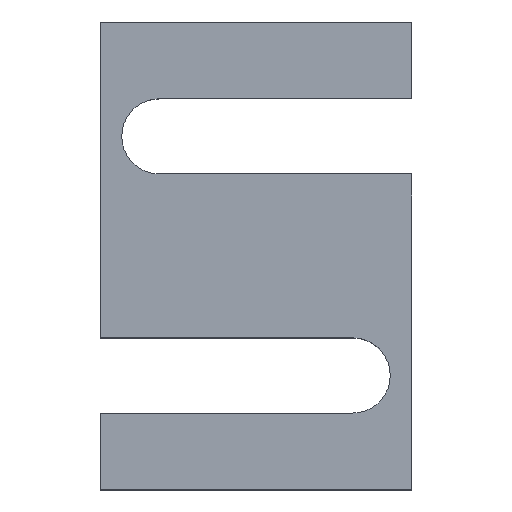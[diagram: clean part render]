
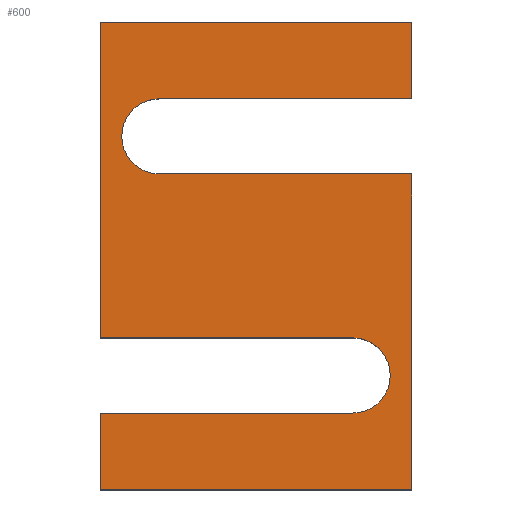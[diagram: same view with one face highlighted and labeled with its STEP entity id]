
A CAD part, top view. The second image highlights one B-rep face of the part: STEP entity #600.
In plain terms, the highlighted planar face has unit normal (0, 0, 1).
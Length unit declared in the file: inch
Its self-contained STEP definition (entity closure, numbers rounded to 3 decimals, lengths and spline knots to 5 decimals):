
#10 = LINE ( 'NONE', #109, #179 ) ;
#11 = CARTESIAN_POINT ( 'NONE',  ( -1., -1.5, 0.375 ) ) ;
#12 = EDGE_CURVE ( 'NONE', #345, #127, #318, .T. ) ;
#22 = DIRECTION ( 'NONE',  ( 1., 0., 0. ) ) ;
#26 = CARTESIAN_POINT ( 'NONE',  ( -0.86114, 0.76673, 0.375 ) ) ;
#27 = CIRCLE ( 'NONE', #185, 0.24114 ) ;
#29 = ORIENTED_EDGE ( 'NONE', *, *, #12, .T. ) ;
#51 = CARTESIAN_POINT ( 'NONE',  ( -1., -1.00787, 0.375 ) ) ;
#52 = VERTEX_POINT ( 'NONE', #155 ) ;
#56 = EDGE_CURVE ( 'NONE', #568, #57, #470, .T. ) ;
#57 = VERTEX_POINT ( 'NONE', #11 ) ;
#59 = DIRECTION ( 'NONE',  ( -1., 0., 0. ) ) ;
#63 = CARTESIAN_POINT ( 'NONE',  ( -1., -0.52559, 0.375 ) ) ;
#64 = CARTESIAN_POINT ( 'NONE',  ( 1., 0.52559, 0.375 ) ) ;
#68 = CARTESIAN_POINT ( 'NONE',  ( -1., -0.52559, 0.375 ) ) ;
#71 = VERTEX_POINT ( 'NONE', #64 ) ;
#81 = VECTOR ( 'NONE', #643, 39.37008 ) ;
#83 = LINE ( 'NONE', #666, #310 ) ;
#93 = CARTESIAN_POINT ( 'NONE',  ( -0.62, 0.76673, 0.375 ) ) ;
#98 = CARTESIAN_POINT ( 'NONE',  ( -1., 1.5, 0.375 ) ) ;
#100 = DIRECTION ( 'NONE',  ( 0., 0., 1. ) ) ;
#105 = ORIENTED_EDGE ( 'NONE', *, *, #433, .T. ) ;
#109 = CARTESIAN_POINT ( 'NONE',  ( 1., 1.5, 0.375 ) ) ;
#115 = LINE ( 'NONE', #243, #412 ) ;
#124 = CARTESIAN_POINT ( 'NONE',  ( -0.62, 0.76673, 0.375 ) ) ;
#125 = AXIS2_PLACEMENT_3D ( 'NONE', #370, #100, #262 ) ;
#127 = VERTEX_POINT ( 'NONE', #435 ) ;
#129 = DIRECTION ( 'NONE',  ( 1., 0., 0. ) ) ;
#132 = VERTEX_POINT ( 'NONE', #268 ) ;
#143 = DIRECTION ( 'NONE',  ( 0., 0., -1. ) ) ;
#144 = VECTOR ( 'NONE', #59, 39.37008 ) ;
#155 = CARTESIAN_POINT ( 'NONE',  ( 0.62, -1.00787, 0.375 ) ) ;
#163 = DIRECTION ( 'NONE',  ( 1., 0., 0. ) ) ;
#164 = EDGE_CURVE ( 'NONE', #662, #635, #463, .T. ) ;
#166 = PLANE ( 'NONE',  #125 ) ;
#176 = VERTEX_POINT ( 'NONE', #490 ) ;
#179 = VECTOR ( 'NONE', #379, 39.37008 ) ;
#185 = AXIS2_PLACEMENT_3D ( 'NONE', #93, #143, #624 ) ;
#198 = ORIENTED_EDGE ( 'NONE', *, *, #671, .T. ) ;
#201 = VECTOR ( 'NONE', #485, 39.37008 ) ;
#204 = CIRCLE ( 'NONE', #336, 0.24114 ) ;
#206 = ORIENTED_EDGE ( 'NONE', *, *, #256, .T. ) ;
#208 = CARTESIAN_POINT ( 'NONE',  ( 0.62, -0.52559, 0.375 ) ) ;
#236 = VERTEX_POINT ( 'NONE', #26 ) ;
#243 = CARTESIAN_POINT ( 'NONE',  ( -1., -1.5, 0.375 ) ) ;
#252 = ORIENTED_EDGE ( 'NONE', *, *, #505, .T. ) ;
#256 = EDGE_CURVE ( 'NONE', #176, #236, #204, .T. ) ;
#260 = CARTESIAN_POINT ( 'NONE',  ( -0.62, 1.00787, 0.375 ) ) ;
#261 = EDGE_CURVE ( 'NONE', #635, #52, #512, .T. ) ;
#262 = DIRECTION ( 'NONE',  ( 1., 0., 0. ) ) ;
#267 = CARTESIAN_POINT ( 'NONE',  ( 1., -1.5, 0.375 ) ) ;
#268 = CARTESIAN_POINT ( 'NONE',  ( 1., 1.5, 0.375 ) ) ;
#270 = DIRECTION ( 'NONE',  ( 0., -1., 0. ) ) ;
#277 = CARTESIAN_POINT ( 'NONE',  ( 0.62, -0.76673, 0.375 ) ) ;
#289 = ORIENTED_EDGE ( 'NONE', *, *, #665, .T. ) ;
#292 = LINE ( 'NONE', #267, #81 ) ;
#293 = DIRECTION ( 'NONE',  ( 1., 0., 0. ) ) ;
#294 = LINE ( 'NONE', #410, #420 ) ;
#301 = LINE ( 'NONE', #591, #201 ) ;
#310 = VECTOR ( 'NONE', #337, 39.37008 ) ;
#315 = EDGE_CURVE ( 'NONE', #57, #504, #115, .T. ) ;
#318 = LINE ( 'NONE', #260, #517 ) ;
#336 = AXIS2_PLACEMENT_3D ( 'NONE', #124, #390, #22 ) ;
#337 = DIRECTION ( 'NONE',  ( 0., 1., 0. ) ) ;
#340 = CARTESIAN_POINT ( 'NONE',  ( -0.62, 1.00787, 0.375 ) ) ;
#341 = FACE_OUTER_BOUND ( 'NONE', #389, .T. ) ;
#345 = VERTEX_POINT ( 'NONE', #340 ) ;
#366 = DIRECTION ( 'NONE',  ( 1., 0., 0. ) ) ;
#370 = CARTESIAN_POINT ( 'NONE',  ( -0.62, 0.76673, 0.375 ) ) ;
#372 = AXIS2_PLACEMENT_3D ( 'NONE', #277, #653, #129 ) ;
#379 = DIRECTION ( 'NONE',  ( -1., 0., 0. ) ) ;
#389 = EDGE_LOOP ( 'NONE', ( #587, #559, #450, #430, #206, #105, #29, #679, #289, #198, #586, #518, #252 ) ) ;
#390 = DIRECTION ( 'NONE',  ( 0., 0., -1. ) ) ;
#402 = EDGE_CURVE ( 'NONE', #127, #132, #83, .T. ) ;
#410 = CARTESIAN_POINT ( 'NONE',  ( -1., -1.00787, 0.375 ) ) ;
#412 = VECTOR ( 'NONE', #293, 39.37008 ) ;
#420 = VECTOR ( 'NONE', #527, 39.37008 ) ;
#430 = ORIENTED_EDGE ( 'NONE', *, *, #539, .T. ) ;
#433 = EDGE_CURVE ( 'NONE', #236, #345, #27, .T. ) ;
#435 = CARTESIAN_POINT ( 'NONE',  ( 1., 1.00787, 0.375 ) ) ;
#450 = ORIENTED_EDGE ( 'NONE', *, *, #618, .T. ) ;
#455 = LINE ( 'NONE', #584, #144 ) ;
#463 = LINE ( 'NONE', #68, #581 ) ;
#470 = LINE ( 'NONE', #51, #639 ) ;
#472 = CARTESIAN_POINT ( 'NONE',  ( -1., -1.00787, 0.375 ) ) ;
#485 = DIRECTION ( 'NONE',  ( 0., -1., 0. ) ) ;
#490 = CARTESIAN_POINT ( 'NONE',  ( -0.62, 0.52559, 0.375 ) ) ;
#504 = VERTEX_POINT ( 'NONE', #680 ) ;
#505 = EDGE_CURVE ( 'NONE', #52, #568, #294, .T. ) ;
#512 = CIRCLE ( 'NONE', #372, 0.24114 ) ;
#517 = VECTOR ( 'NONE', #366, 39.37008 ) ;
#518 = ORIENTED_EDGE ( 'NONE', *, *, #261, .T. ) ;
#527 = DIRECTION ( 'NONE',  ( -1., 0., 0. ) ) ;
#539 = EDGE_CURVE ( 'NONE', #71, #176, #455, .T. ) ;
#559 = ORIENTED_EDGE ( 'NONE', *, *, #315, .T. ) ;
#568 = VERTEX_POINT ( 'NONE', #472 ) ;
#581 = VECTOR ( 'NONE', #163, 39.37008 ) ;
#584 = CARTESIAN_POINT ( 'NONE',  ( -0.62, 0.52559, 0.375 ) ) ;
#586 = ORIENTED_EDGE ( 'NONE', *, *, #164, .T. ) ;
#587 = ORIENTED_EDGE ( 'NONE', *, *, #56, .T. ) ;
#591 = CARTESIAN_POINT ( 'NONE',  ( -1., 1.5, 0.375 ) ) ;
#600 = ADVANCED_FACE ( 'NONE', ( #341 ), #166, .T. ) ;
#616 = VERTEX_POINT ( 'NONE', #98 ) ;
#618 = EDGE_CURVE ( 'NONE', #504, #71, #292, .T. ) ;
#624 = DIRECTION ( 'NONE',  ( 1., 0., 0. ) ) ;
#635 = VERTEX_POINT ( 'NONE', #208 ) ;
#639 = VECTOR ( 'NONE', #270, 39.37008 ) ;
#643 = DIRECTION ( 'NONE',  ( 0., 1., 0. ) ) ;
#653 = DIRECTION ( 'NONE',  ( 0., 0., -1. ) ) ;
#662 = VERTEX_POINT ( 'NONE', #63 ) ;
#665 = EDGE_CURVE ( 'NONE', #132, #616, #10, .T. ) ;
#666 = CARTESIAN_POINT ( 'NONE',  ( 1., 1.00787, 0.375 ) ) ;
#671 = EDGE_CURVE ( 'NONE', #616, #662, #301, .T. ) ;
#679 = ORIENTED_EDGE ( 'NONE', *, *, #402, .T. ) ;
#680 = CARTESIAN_POINT ( 'NONE',  ( 1., -1.5, 0.375 ) ) ;
